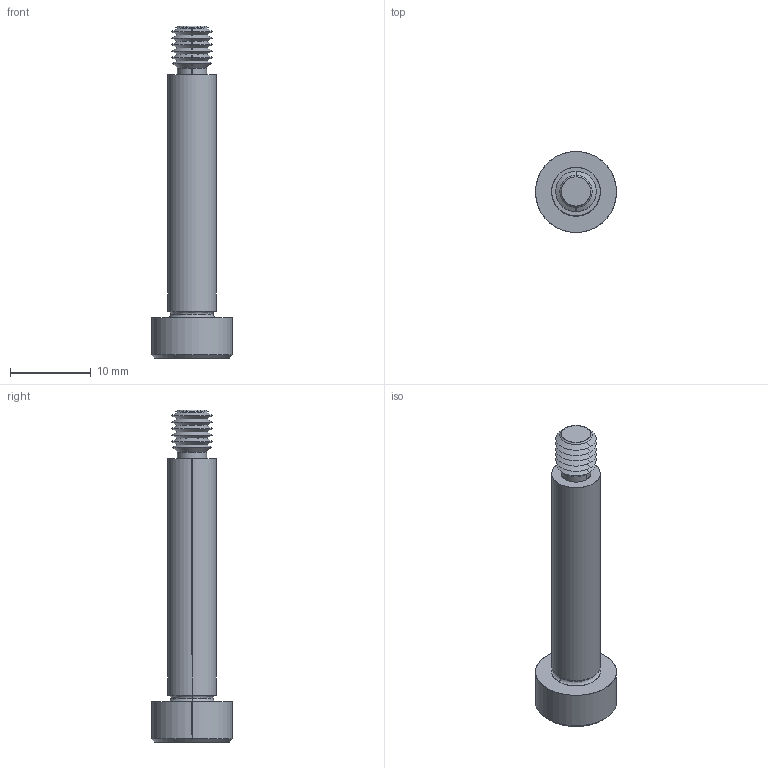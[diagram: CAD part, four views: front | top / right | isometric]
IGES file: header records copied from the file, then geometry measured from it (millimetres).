
Start section: SolidWorks IGES file using analytic representation for surfaces
Global section: file name: C:\Users\IanO\Documents\Temp Folder\GENERAL\SCREW REVISION\P0130_v2\P0130.T5_v2_20220106_IGES\P0130.060-030-T5.igs; native system: SolidWorks 2019; preprocessor: SolidWorks 2019; author: IanO; date: 220106.222526; units: millimetre
Bounding box: 10 x 10 x 41 mm (x, y, z)
Surface area: 1053.1 mm2 (no closed solid volume)
Topology: 0 solids, 0 shells, 64 faces, 504 edges, 502 vertices
Faces by surface type: revolution 44, bspline 20
